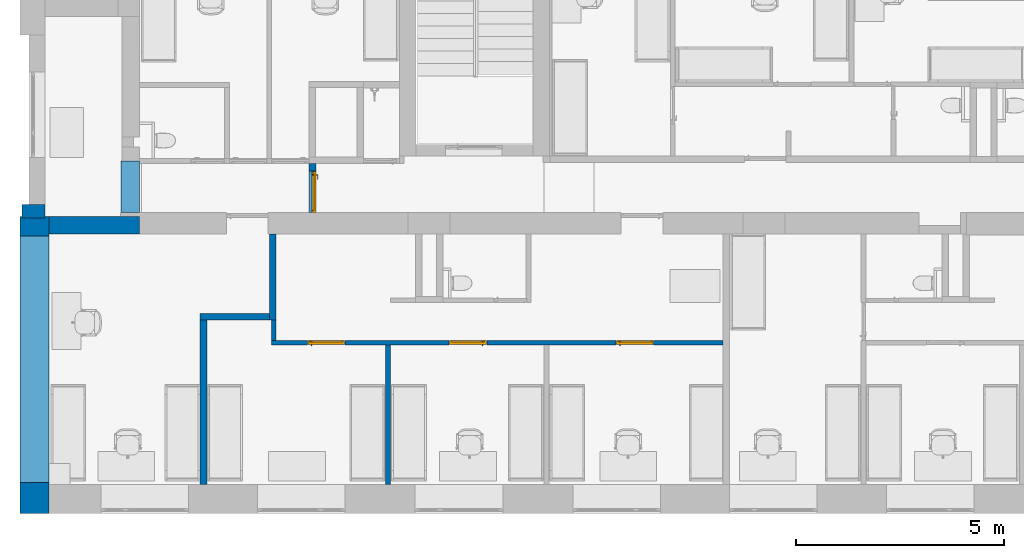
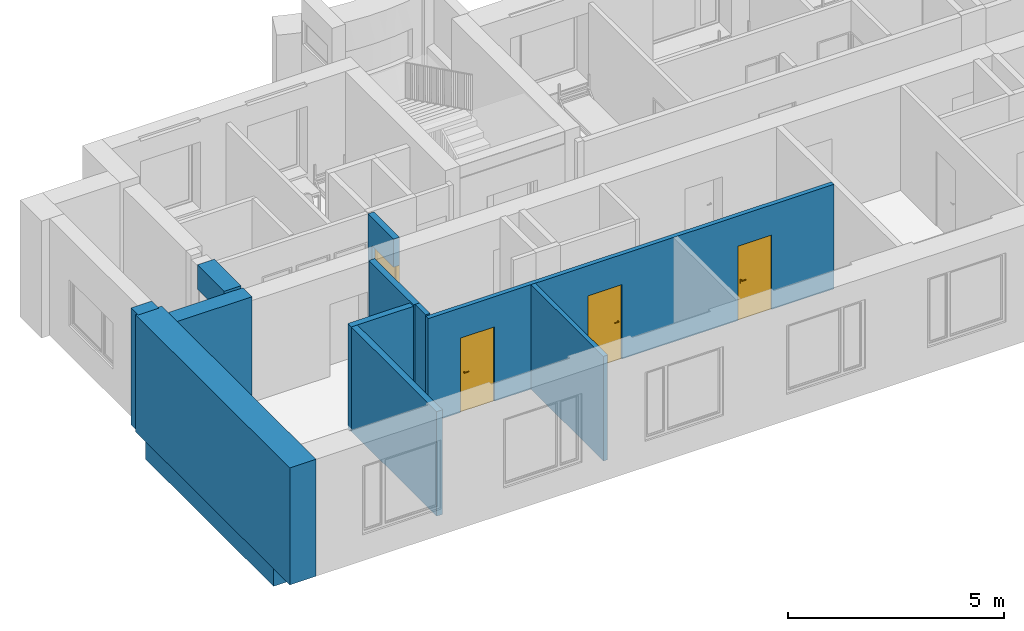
# One storey, part 4 of 46: 12 walls, 4 doors, 4 openings.
"""IFC2X3 building model written with IfcOpenShell, lengths in millimetres."""

import ifcopenshell
import ifcopenshell.guid

model = None  # the IFC model being written
_history = None  # IfcOwnerHistory: only IFC2X3 demands one
_inside = {}  # id of a spatial element -> (the spatial element, [elements in it])
_under = {}  # id of a project, library or spatial element -> (it, [spatial elements below it])
_declared = {}  # id of a project -> (the project, [libraries it declares])
_typed = {}  # id of a type object -> (the type object, [elements of that type])
_made_of = {}  # id of a material, layer set ... -> (it, [elements and type objects made of it])


def new_model(schema):
    """Start an empty IFC model of exactly this schema.

    Asked for "IFC4X3", IfcOpenShell would pick the latest addendum, in which some entities
    have other attributes; the version numbers below select the first issue.
    IFC2X3 requires an IfcOwnerHistory on every rooted entity: one is made here for all.
    """
    global model, _history
    if schema == "IFC4X3":
        model = ifcopenshell.file(schema_version=(4, 3, 0, 0))
    else:
        model = ifcopenshell.file(schema=schema)
    _inside.clear()
    _under.clear()
    _declared.clear()
    _typed.clear()
    _made_of.clear()
    _history = None
    if model.schema == "IFC2X3":
        org = make("IfcOrganization", Name="unknown")
        user = make(
            "IfcPersonAndOrganization",
            ThePerson=make("IfcPerson", FamilyName="unknown"),
            TheOrganization=org,
        )
        app = make(
            "IfcApplication",
            ApplicationDeveloper=org,
            Version="unknown",
            ApplicationFullName="unknown",
            ApplicationIdentifier="unknown",
        )
        _history = make(
            "IfcOwnerHistory",
            OwningUser=user,
            OwningApplication=app,
            ChangeAction="ADDED",
            CreationDate=0,
        )
    return model


def make(cls, **values):
    """One entity of the class cls with the attributes given. An attribute that is None is left unset."""
    return model.create_entity(
        cls, **{name: value for name, value in values.items() if value is not None}
    )


def entity(cls, *values):
    """Any entity or typed value of the class cls, its attributes in the order of the schema. None: left unset."""
    e = model.create_entity(cls)
    for i, value in enumerate(values):
        if value is not None:
            e[i] = value
    return e


def rooted(cls, **values):
    """An entity with a GlobalId (a new one), such as an element, a storey or a relation."""
    return make(cls, GlobalId=ifcopenshell.guid.new(), OwnerHistory=_history, **values)


def si_unit(unit_type, name, prefix=None):
    """IfcSIUnit, for example si_unit("LENGTHUNIT", "METRE", prefix="MILLI")."""
    return make("IfcSIUnit", UnitType=unit_type, Prefix=prefix, Name=name)


def converted_unit(unit_type, name, factor, base, dimensions=None, offset=None):
    """IfcConversionBasedUnit, such as the inch: factor (a typed value) times the base unit."""
    return make(
        "IfcConversionBasedUnit"
        if offset is None
        else "IfcConversionBasedUnitWithOffset",
        ConversionOffset=offset,
        Dimensions=None
        if dimensions is None
        else entity("IfcDimensionalExponents", *dimensions),
        UnitType=unit_type,
        Name=name,
        ConversionFactor=make(
            "IfcMeasureWithUnit", ValueComponent=factor, UnitComponent=base
        ),
    )


def derived_unit(unit_type, elements):
    """IfcDerivedUnit: a product of units, each with its exponent."""
    return make(
        "IfcDerivedUnit",
        Elements=[
            make("IfcDerivedUnitElement", Unit=unit, Exponent=power)
            for unit, power in elements
        ],
        UnitType=unit_type,
    )


def assignment(units):
    """IfcUnitAssignment: the units of a project."""
    return None if units is None else make("IfcUnitAssignment", Units=units)


def point(xyz):
    """IfcCartesianPoint."""
    return None if xyz is None else make("IfcCartesianPoint", Coordinates=xyz)


def direction(xyz):
    """IfcDirection."""
    return None if xyz is None else make("IfcDirection", DirectionRatios=xyz)


def frame(location, z_axis=None, x_axis=None):
    """IfcAxis2Placement3D, a coordinate frame: its origin and axes. An axis left out is left unset."""
    return make(
        "IfcAxis2Placement3D",
        Location=point(location),
        Axis=direction(z_axis),
        RefDirection=direction(x_axis),
    )


def frame_2d(location, x_axis=None):
    """IfcAxis2Placement2D, a coordinate frame in the plane: its origin and x axis."""
    return make(
        "IfcAxis2Placement2D", Location=point(location), RefDirection=direction(x_axis)
    )


def origin():
    """The frame at (0, 0, 0) with its axes left unset."""
    return frame((0.0, 0.0, 0.0))


def place(relative_to, where):
    """IfcLocalPlacement: puts the frame where relative to a parent placement (None: the world)."""
    return make(
        "IfcLocalPlacement", PlacementRelTo=relative_to, RelativePlacement=where
    )


def context(
    kind, dimensions, precision=None, world=None, true_north=None, identifier=None
):
    """IfcGeometricRepresentationContext, for example the 3D "Model" context."""
    return make(
        "IfcGeometricRepresentationContext",
        ContextIdentifier=identifier,
        ContextType=kind,
        CoordinateSpaceDimension=dimensions,
        Precision=precision,
        WorldCoordinateSystem=world,
        TrueNorth=true_north,
    )


def subcontext(parent, identifier, kind, view, scale=None):
    """IfcGeometricRepresentationSubContext, for example "Body" below "Model"."""
    return make(
        "IfcGeometricRepresentationSubContext",
        ContextIdentifier=identifier,
        ContextType=kind,
        ParentContext=parent,
        TargetScale=scale,
        TargetView=view,
    )


def project(units=None, contexts=None):
    """IfcProject with its units and contexts."""
    return rooted(
        "IfcProject",
        Name="project",
        RepresentationContexts=contexts,
        UnitsInContext=assignment(units),
    )


def spatial(cls, under=None, at=None, **own):
    """A site, building, storey or space (cls), placed at a placement, below another one or the project."""
    s = rooted(cls, ObjectPlacement=at, **own)
    if under is not None:
        _under.setdefault(under.id(), (under, []))[1].append(s)
    return s


def polyline(points):
    """IfcPolyline through the points."""
    return make("IfcPolyline", Points=[point(p) for p in points])


def profile(cls, at=None, kind="AREA", **sizes):
    """A parametric profile (cls). Its sizes go by their IFC names, for example OverallWidth=200.0."""
    return make(cls, ProfileType=kind, Position=at, **sizes)


def rectangle(**sizes):
    """IfcRectangleProfileDef."""
    return profile("IfcRectangleProfileDef", **sizes)


def extrude(swept, where, along, depth):
    """IfcExtrudedAreaSolid: the profile swept, set in the frame where, extruded along a direction by depth."""
    return make(
        "IfcExtrudedAreaSolid",
        SweptArea=swept,
        Position=where,
        ExtrudedDirection=direction(along),
        Depth=depth,
    )


def clip(a, b, op="DIFFERENCE"):
    """IfcBooleanClippingResult: the solid a cut by the half space b."""
    return make(
        "IfcBooleanClippingResult", Operator=op, FirstOperand=a, SecondOperand=b
    )


def bounded_halfspace(plane, agree, where, boundary):
    """IfcPolygonalBoundedHalfSpace: a half space limited to a polygon's prism."""
    return make(
        "IfcPolygonalBoundedHalfSpace",
        BaseSurface=make("IfcPlane", Position=plane),
        AgreementFlag=agree,
        Position=where,
        PolygonalBoundary=boundary,
    )


def faces_of(points, faces, orient=None, outer=None):
    """IfcFace entities. A face is a list of loops; a loop is a list of indices into points, from 0.

    orient and outer hold one flag for each loop. By default every Orientation is true, the
    first loop of a face is its IfcFaceOuterBound and the others are IfcFaceBound.
    """
    made = []
    for i, loops in enumerate(faces):
        bounds = []
        for j, loop in enumerate(loops):
            is_outer = j == 0 if outer is None else outer[i][j]
            bounds.append(
                make(
                    "IfcFaceOuterBound" if is_outer else "IfcFaceBound",
                    Bound=make("IfcPolyLoop", Polygon=[points[k] for k in loop]),
                    Orientation=True if orient is None else orient[i][j],
                )
            )
        made.append(make("IfcFace", Bounds=bounds))
    return made


def faceted_brep(points, faces, orient=None, outer=None, voids=None):
    """IfcFacetedBrep: a solid bounded by flat faces; with voids (closed shells), ...WithVoids."""
    shared = [point(p) for p in points]
    hull = make("IfcClosedShell", CfsFaces=faces_of(shared, faces, orient, outer))
    if voids is None:
        return make("IfcFacetedBrep", Outer=hull)
    return make(
        "IfcFacetedBrepWithVoids",
        Outer=hull,
        Voids=[
            make(cls, CfsFaces=faces_of(shared, fs, o, b)) for cls, fs, o, b in voids
        ],
    )


def shape(context_of_items, identifier, shape_type, items):
    """IfcShapeRepresentation: the items that make up one representation, for example the "Body"."""
    return make(
        "IfcShapeRepresentation",
        ContextOfItems=context_of_items,
        RepresentationIdentifier=identifier,
        RepresentationType=shape_type,
        Items=items,
    )


def source(mapping_origin, context_of_items, identifier, shape_type, items):
    """IfcRepresentationMap: a shape defined once, which mapped items show again and again."""
    return make(
        "IfcRepresentationMap",
        MappingOrigin=mapping_origin,
        MappedRepresentation=shape(context_of_items, identifier, shape_type, items),
    )


def transform(
    local_origin,
    x_axis=None,
    y_axis=None,
    z_axis=None,
    scale=None,
    scale2=None,
    scale3=None,
    uniform=True,
):
    """IfcCartesianTransformationOperator3D, or its non-uniform kind. x_axis, y_axis, z_axis: its Axis1, 2, 3."""
    if uniform:
        return make(
            "IfcCartesianTransformationOperator3D",
            Axis1=direction(x_axis),
            Axis2=direction(y_axis),
            LocalOrigin=point(local_origin),
            Scale=scale,
            Axis3=direction(z_axis),
        )
    return make(
        "IfcCartesianTransformationOperator3DnonUniform",
        Axis1=direction(x_axis),
        Axis2=direction(y_axis),
        LocalOrigin=point(local_origin),
        Scale=scale,
        Axis3=direction(z_axis),
        Scale2=scale2,
        Scale3=scale3,
    )


def mapped(mapping_source, mapping_target):
    """IfcMappedItem: shows the shape of a source again, moved by a transform."""
    return make(
        "IfcMappedItem", MappingSource=mapping_source, MappingTarget=mapping_target
    )


def material(Name=None, Category=None):
    """IfcMaterial."""
    return make("IfcMaterial", Name=Name, Category=Category)


def material_list(materials):
    """IfcMaterialList."""
    return make("IfcMaterialList", Materials=materials)


def layer(
    of_material, thickness, ventilated=None, Name=None, Category=None, Priority=None
):
    """IfcMaterialLayer: one layer of a wall or slab, of a material (None: an air gap)."""
    return make(
        "IfcMaterialLayer",
        Material=of_material,
        LayerThickness=thickness,
        IsVentilated=ventilated,
        Name=Name,
        Category=Category,
        Priority=Priority,
    )


def layer_set(layers, Name=None):
    """IfcMaterialLayerSet."""
    return make("IfcMaterialLayerSet", MaterialLayers=layers, LayerSetName=Name)


def layer_usage(for_layer_set, set_direction, sense, offset, extent=None):
    """IfcMaterialLayerSetUsage: how a layer set lies in its element."""
    return make(
        "IfcMaterialLayerSetUsage",
        ForLayerSet=for_layer_set,
        LayerSetDirection=set_direction,
        DirectionSense=sense,
        OffsetFromReferenceLine=offset,
        ReferenceExtent=extent,
    )


def made_of(thing, what):
    """Note that an element or type object is made of a material, layer set ...; save() writes the relation."""
    if what is not None:
        _made_of.setdefault(what.id(), (what, []))[1].append(thing)
    return thing


def type_object(cls, material=None, **own):
    """A type object (cls), such as IfcWallType, which elements share."""
    return made_of(rooted(cls, **own), material)


def type_shapes(of_type, sources):
    """Give a type object the sources (RepresentationMaps) that its elements show as mapped items."""
    of_type.RepresentationMaps = sources


def element(
    cls,
    number,
    at=None,
    inside=None,
    cuts=None,
    type_object=None,
    material=None,
    context=None,
    identifier="Body",
    shape_type=None,
    held_by="IfcProductDefinitionShape",
    body=None,
    shapes=None,
    **own,
):
    """One element of the class cls, such as IfcWall. Its Tag is "e" and its number.

    at: its placement. inside: the storey or other place that contains it. cuts: it is an
    opening in that element (IfcRelVoidsElement). A single representation is given by context,
    identifier, shape_type and body (its items); several are given by shapes. held_by: the class
    of the entity that holds the representations. save() writes the other relations.
    """
    e = rooted(cls, Tag="e%d" % number, ObjectPlacement=at, **own)
    if body is not None:
        shapes = [shape(context, identifier, shape_type, body)]
    if shapes is not None:
        e.Representation = make(held_by, Representations=shapes)
    if inside is not None:
        _inside.setdefault(inside.id(), (inside, []))[1].append(e)
    if cuts is not None:
        rooted(
            "IfcRelVoidsElement", RelatingBuildingElement=cuts, RelatedOpeningElement=e
        )
    if type_object is not None:
        _typed.setdefault(type_object.id(), (type_object, []))[1].append(e)
    return made_of(e, material)


def fill(opening, filler):
    """IfcRelFillsElement: the door or window that sits in an opening."""
    return rooted(
        "IfcRelFillsElement",
        RelatingOpeningElement=opening,
        RelatedBuildingElement=filler,
    )


def aggregate(whole, parts):
    """IfcRelAggregates: a whole, such as a stair, and the parts it consists of."""
    return rooted("IfcRelAggregates", RelatingObject=whole, RelatedObjects=parts)


def save(model, path):
    """Write the relations noted so far, then the file.

    IfcRelAggregates (storeys below a building ...), IfcRelContainedInSpatialStructure (elements
    in a storey), IfcRelDefinesByType, IfcRelAssociatesMaterial and IfcRelDeclares: one each for
    every whole, place, type object, material and project.
    """
    for whole, parts in _under.values():
        aggregate(whole, parts)
    for where, things in _inside.values():
        rooted(
            "IfcRelContainedInSpatialStructure",
            RelatedElements=things,
            RelatingStructure=where,
        )
    for kind, things in _typed.values():
        rooted("IfcRelDefinesByType", RelatedObjects=things, RelatingType=kind)
    for what, things in _made_of.values():
        rooted("IfcRelAssociatesMaterial", RelatedObjects=things, RelatingMaterial=what)
    for by, libraries in _declared.values():
        rooted("IfcRelDeclares", RelatingContext=by, RelatedDefinitions=libraries)
    model.write(path)


model = new_model("IFC2X3")

# Units and contexts
model_context = context("Model", 3, precision=0.01, world=origin(), true_north=direction((6.12303176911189e-17, 1.0)))
body_context = subcontext(model_context, "Body", "Model", "MODEL_VIEW")
ifc_project = project(units=[si_unit("LENGTHUNIT", "METRE", prefix="MILLI"), si_unit("AREAUNIT", "SQUARE_METRE"), si_unit("VOLUMEUNIT", "CUBIC_METRE"), converted_unit("PLANEANGLEUNIT", "DEGREE", entity("IfcRatioMeasure", 0.0174532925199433), si_unit("PLANEANGLEUNIT", "RADIAN"), dimensions=[0, 0, 0, 0, 0, 0, 0]), si_unit("MASSUNIT", "GRAM", prefix="KILO"), derived_unit("MASSDENSITYUNIT", [(si_unit("MASSUNIT", "GRAM", prefix="KILO"), 1), (si_unit("LENGTHUNIT", "METRE"), -3)]), si_unit("TIMEUNIT", "SECOND"), si_unit("FREQUENCYUNIT", "HERTZ"), si_unit("THERMODYNAMICTEMPERATUREUNIT", "DEGREE_CELSIUS"), derived_unit("THERMALTRANSMITTANCEUNIT", [(si_unit("MASSUNIT", "GRAM", prefix="KILO"), 1), (si_unit("THERMODYNAMICTEMPERATUREUNIT", "KELVIN"), -1), (si_unit("TIMEUNIT", "SECOND"), -3)]), derived_unit("VOLUMETRICFLOWRATEUNIT", [(si_unit("LENGTHUNIT", "METRE"), 3), (si_unit("TIMEUNIT", "SECOND"), -1)]), si_unit("ELECTRICCURRENTUNIT", "AMPERE"), si_unit("ELECTRICVOLTAGEUNIT", "VOLT"), si_unit("POWERUNIT", "WATT"), si_unit("FORCEUNIT", "NEWTON", prefix="KILO"), si_unit("ILLUMINANCEUNIT", "LUX"), si_unit("LUMINOUSFLUXUNIT", "LUMEN"), si_unit("LUMINOUSINTENSITYUNIT", "CANDELA"), derived_unit("USERDEFINED", [(si_unit("MASSUNIT", "GRAM", prefix="KILO"), -1), (si_unit("LENGTHUNIT", "METRE"), -2), (si_unit("TIMEUNIT", "SECOND"), 3), (si_unit("LUMINOUSFLUXUNIT", "LUMEN"), 1)]), derived_unit("LINEARVELOCITYUNIT", [(si_unit("LENGTHUNIT", "METRE"), 1), (si_unit("TIMEUNIT", "SECOND"), -1)]), si_unit("PRESSUREUNIT", "PASCAL"), derived_unit("USERDEFINED", [(si_unit("LENGTHUNIT", "METRE"), -2), (si_unit("MASSUNIT", "GRAM", prefix="KILO"), 1), (si_unit("TIMEUNIT", "SECOND"), -2)]), derived_unit("LINEARFORCEUNIT", [(si_unit("MASSUNIT", "GRAM", prefix="KILO"), 1), (si_unit("LENGTHUNIT", "METRE"), 1), (si_unit("TIMEUNIT", "SECOND"), -2), (si_unit("LENGTHUNIT", "METRE"), -1)]), derived_unit("PLANARFORCEUNIT", [(si_unit("MASSUNIT", "GRAM", prefix="KILO"), 1), (si_unit("LENGTHUNIT", "METRE"), 1), (si_unit("TIMEUNIT", "SECOND"), -2), (si_unit("LENGTHUNIT", "METRE"), -2)])], contexts=[model_context])

# Site, building, storey
site_placement = place(None, origin())
site = spatial("IfcSite", under=ifc_project, at=site_placement, Name="Default", CompositionType="ELEMENT")
building_placement = place(site_placement, origin())
building = spatial("IfcBuilding", under=site, at=building_placement, Name="SMA ARH", CompositionType="ELEMENT")
storey_placement = place(building_placement, origin())
storey = spatial("IfcBuildingStorey", under=building, at=storey_placement, Name="1 Korrus", CompositionType="ELEMENT", Elevation=0.0)

# Walls
ifc_material_1 = material(Name="_ol.olev sein")
ifc_layer_1 = layer(ifc_material_1, 700.0)
ifc_layer_set_1 = layer_set([ifc_layer_1], Name="Basic Wall:Generic - 700mm")
ifc_layer_usage_1 = layer_usage(ifc_layer_set_1, "AXIS2", "POSITIVE", -350.0)
wall_type_1 = type_object("IfcWallType", Name="Basic Wall:Generic - 700mm", PredefinedType="STANDARD", material=ifc_layer_set_1)
wall_1_placement = place(storey_placement, frame((-350.0, 6430.0, 0.0), z_axis=(0.0, 0.0, 1.0), x_axis=(0.0, -1.0, 0.0)))
element("IfcWallStandardCase", 1, at=wall_1_placement, inside=storey, type_object=wall_type_1, material=ifc_layer_usage_1, Name="Basic Wall:Generic - 700mm", ObjectType="Basic Wall:Generic - 700mm", context=body_context, shape_type="Clipping", body=[
    clip(extrude(rectangle(XDim=7130.00000000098, YDim=700.0, at=frame_2d((3565.00000000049, 0.0), x_axis=(-1.0, 0.0))), origin(), (0.0, 0.0, 1.0), 3299.99999999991), bounded_halfspace(frame((40.0, 250.0, 3300.0), z_axis=(1.0, 0.0, 0.0), x_axis=(0.0, -1.0, 0.0)), True, frame((40.0, 250.0, 3300.0), z_axis=(1.0, 0.0, 0.0), x_axis=(0.0, -1.0, 0.0)), polyline([(0.0, 0.0), (550.0, 0.0), (550.0, 3300.0), (0.0, 3300.0), (0.0, 0.0)]))),
])
ifc_layer_usage_2 = layer_usage(ifc_layer_set_1, "AXIS2", "POSITIVE", -350.0)
wall_2_placement = place(storey_placement, frame((-350.0, 5960.0, -494.206602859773), z_axis=(0.0, 0.0, 1.0), x_axis=(0.0, -1.0, 0.0)))
element("IfcWallStandardCase", 2, at=wall_2_placement, inside=storey, type_object=wall_type_1, material=ifc_layer_usage_2, Name="Basic Wall:Generic - 700mm", ObjectType="Basic Wall:Generic - 700mm", context=body_context, shape_type="SweptSolid", body=[
    extrude(rectangle(XDim=5910.0, YDim=700.0, at=frame_2d((2955.0, 0.0), x_axis=(-1.0, 0.0))), origin(), (0.0, 0.0, 1.0), 494.206602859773),
])
ifc_layer_2 = layer(ifc_material_1, 550.0)
ifc_layer_set_2 = layer_set([ifc_layer_2], Name="Basic Wall:Generic - 550mm")
ifc_layer_usage_3 = layer_usage(ifc_layer_set_2, "AXIS2", "NEGATIVE", 275.0)
wall_type_2 = type_object("IfcWallType", Name="Basic Wall:Generic - 550mm", PredefinedType="STANDARD", material=ifc_layer_set_2)
wall_3_placement = place(storey_placement, frame((-375.0, 6390.0, 0.0), z_axis=(0.0, 0.0, 1.0), x_axis=(0.0, 1.0, 0.0)))
element("IfcWallStandardCase", 3, at=wall_3_placement, inside=storey, type_object=wall_type_2, material=ifc_layer_usage_3, Name="Basic Wall:Generic - 550mm", ObjectType="Basic Wall:Generic - 550mm", context=body_context, shape_type="SweptSolid", body=[
    extrude(rectangle(XDim=330.000000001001, YDim=550.0, at=frame_2d((165.000000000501, 8.5265128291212e-14), x_axis=(-1.0, 0.0))), origin(), (0.0, 0.0, 1.0), 3299.99999999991),
])
ifc_layer_3 = layer(ifc_material_1, 420.0)
ifc_layer_set_3 = layer_set([ifc_layer_3], Name="Basic Wall:Generic - 420mm")
ifc_layer_usage_4 = layer_usage(ifc_layer_set_3, "AXIS2", "POSITIVE", -210.0)
wall_type_3 = type_object("IfcWallType", Name="Basic Wall:Generic - 420mm", PredefinedType="STANDARD", material=ifc_layer_set_3)
wall_4_placement = place(storey_placement, frame((0.0, 6220.0, 0.0)))
element("IfcWallStandardCase", 4, at=wall_4_placement, inside=storey, type_object=wall_type_3, material=ifc_layer_usage_4, Name="Basic Wall:Generic - 420mm", ObjectType="Basic Wall:Generic - 420mm", context=body_context, shape_type="SweptSolid", body=[
    extrude(rectangle(XDim=2166.80783715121, YDim=420.0, at=frame_2d((1083.4039185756, 2.27373675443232e-13), x_axis=(-1.0, 0.0))), origin(), (0.0, 0.0, 1.0), 3059.99999999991),
])
ifc_layer_4 = layer(ifc_material_1, 450.0)
ifc_layer_set_4 = layer_set([ifc_layer_4], Name="Basic Wall:Generic - 450mm")
ifc_layer_usage_5 = layer_usage(ifc_layer_set_4, "AXIS2", "NEGATIVE", 225.0)
wall_type_4 = type_object("IfcWallType", Name="Basic Wall:Generic - 450mm", PredefinedType="STANDARD", material=ifc_layer_set_4)
wall_5_placement = place(storey_placement, frame((1941.80783715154, 6520.0, 2367.84496076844), z_axis=(0.0, 0.0, 1.0), x_axis=(0.0, 1.0, 0.0)))
element("IfcWallStandardCase", 5, at=wall_5_placement, inside=storey, type_object=wall_type_4, material=ifc_layer_usage_5, Name="Basic Wall:Generic - 450mm", ObjectType="Basic Wall:Generic - 450mm", context=body_context, shape_type="SweptSolid", body=[
    extrude(rectangle(XDim=1238.00000000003, YDim=450.0, at=frame_2d((619.000000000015, -4.2632564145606e-14), x_axis=(-1.0, 0.0))), origin(), (0.0, 0.0, 1.0), 692.155039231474),
])
ifc_material_2 = material(Name="EST. Ehitusplaat. Kipsplaat")
ifc_layer_5 = layer(ifc_material_2, 12.5)
ifc_layer_6 = layer(ifc_material_2, 12.5)
ifc_material_3 = material(Name="EST. Soojustus. Mineraalvill. Default")
ifc_layer_7 = layer(ifc_material_3, 50.0)
ifc_layer_8 = layer(ifc_material_2, 12.5)
ifc_layer_9 = layer(ifc_material_3, 50.0)
ifc_layer_10 = layer(ifc_material_2, 12.5)
ifc_layer_11 = layer(ifc_material_2, 12.5)
ifc_layer_set_5 = layer_set([ifc_layer_5, ifc_layer_6, ifc_layer_7, ifc_layer_8, ifc_layer_9, ifc_layer_10, ifc_layer_11], Name="Basic Wall:SS-04_Kips, 50+50 mm metallkarkass 2")
ifc_layer_usage_6 = layer_usage(ifc_layer_set_5, "AXIS2", "NEGATIVE", 81.25)
wall_type_5 = type_object("IfcWallType", Name="Basic Wall:SS-04_Kips, 50+50 mm metallkarkass 2", PredefinedType="STANDARD", material=ifc_layer_set_5)
wall_6_placement = place(storey_placement, frame((3704.50000000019, 0.0, 0.0), z_axis=(0.0, 0.0, 1.0), x_axis=(0.0, 1.0, 0.0)))
element("IfcWallStandardCase", 6, at=wall_6_placement, inside=storey, type_object=wall_type_5, material=ifc_layer_usage_6, Name="Basic Wall:SS-04_Kips, 50+50 mm metallkarkass 2", ObjectType="Basic Wall:SS-04_Kips, 50+50 mm metallkarkass 2", context=body_context, shape_type="SweptSolid", body=[
    extrude(rectangle(XDim=3944.25000000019, YDim=162.5, at=frame_2d((1972.1250000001, 1.49213974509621e-13), x_axis=(-1.0, 0.0))), origin(), (0.0, 0.0, 1.0), 2949.99999999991),
])
ifc_layer_usage_7 = layer_usage(ifc_layer_set_5, "AXIS2", "NEGATIVE", 81.25)
wall_7_placement = place(storey_placement, frame((5363.75000000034, 6010.0, 0.0), z_axis=(0.0, 0.0, 1.0), x_axis=(0.0, -1.0, 0.0)))
element("IfcWallStandardCase", 7, at=wall_7_placement, inside=storey, type_object=wall_type_5, material=ifc_layer_usage_7, Name="Basic Wall:SS-04_Kips, 50+50 mm metallkarkass 2", ObjectType="Basic Wall:SS-04_Kips, 50+50 mm metallkarkass 2", context=body_context, shape_type="SweptSolid", body=[
    extrude(rectangle(XDim=2065.75000000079, YDim=162.5, at=frame_2d((1032.87500000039, 1.35003119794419e-13), x_axis=(-1.0, 0.0))), origin(), (0.0, 0.0, 1.0), 2989.99999999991),
])

# Wall, opening, door
ifc_layer_usage_8 = layer_usage(ifc_layer_set_5, "AXIS2", "NEGATIVE", 81.25)
wall_8_placement = place(storey_placement, frame((6316.57130046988, 6520.0, 0.0), z_axis=(0.0, 0.0, 1.0), x_axis=(0.0, 1.0, 0.0)))
wall_8 = element("IfcWallStandardCase", 8, at=wall_8_placement, inside=storey, type_object=wall_type_5, material=ifc_layer_usage_8, Name="Basic Wall:SS-04_Kips, 50+50 mm metallkarkass 2", ObjectType="Basic Wall:SS-04_Kips, 50+50 mm metallkarkass 2", context=body_context, shape_type="SweptSolid", body=[
    extrude(rectangle(XDim=1180.00000000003, YDim=162.5, at=frame_2d((590.000000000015, -8.5265128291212e-14), x_axis=(-1.0, 0.0))), origin(), (0.0, 0.0, 1.0), 2949.99999999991),
])
opening_1_placement = place(wall_8_placement, frame((1000.0, 81.2499999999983, 60.0)))
opening_1 = element("IfcOpeningElement", 9, at=opening_1_placement, cuts=wall_8, Name="SMA_D01, 1-poolne:SU-P-04 - 1000x2100 EI-30:1", ObjectType="Opening", context=body_context, shape_type="SweptSolid", body=[
    extrude(rectangle(XDim=2099.99999999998, YDim=1000.0, at=frame_2d((1049.99999999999, 500.0), x_axis=(1.0, 0.0))), frame((0.0, 0.0, 0.0), z_axis=(0.0, -1.0, 0.0), x_axis=(0.0, 0.0, 1.0)), (0.0, 0.0, 1.0), 162.5),
])
ifc_material_4 = material(Name="EST. Metall. Alumiinium. Värvitud. RAL7023 (Concrete grey)")
ifc_material_5 = material(Name="<Unnamed>")
ifc_material_6 = material(Name="EST. Klaas. 3x. Default")
ifc_material_list_1 = material_list([ifc_material_4, ifc_material_5, ifc_material_4, ifc_material_5, ifc_material_6, ifc_material_5, ifc_material_4])
door_style_1 = type_object("IfcDoorStyle", Name="SMA_D01, 1-poolne:SU-P-04 - 1000x2100 EI-30", ConstructionType="NOTDEFINED", OperationType="SINGLE_SWING_RIGHT", ParameterTakesPrecedence=False, Sizeable=False, material=ifc_material_list_1)
shared_shape_1 = source(origin(), body_context, "Body", "Brep", [
    faceted_brep([(110.0, 72.5000000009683, 1112.5), (110.0, 110.500000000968, 1112.5), (85.0, 110.500000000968, 1112.5), (85.0, 67.5000000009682, 1112.5), (205.0, 67.5000000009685, 1112.5), (205.0, 72.5000000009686, 1112.5), (110.0, 72.5000000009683, 1087.5), (205.0, 72.5000000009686, 1087.5), (205.0, 67.5000000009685, 1087.5), (85.0, 67.5000000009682, 1087.5), (85.0, 110.500000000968, 1087.5), (110.0, 110.500000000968, 1087.5)], [[[0, 1, 2, 3, 4, 5]], [[6, 7, 8, 9, 10, 11]], [[1, 0, 6, 11]], [[2, 1, 11, 10]], [[3, 2, 10, 9]], [[4, 3, 9, 8]], [[5, 4, 8, 7]], [[0, 5, 7, 6]]]),
    faceted_brep([(122.499999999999, 110.500000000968, 1137.5), (122.499999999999, 112.500000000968, 1137.5), (72.4999999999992, 112.500000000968, 1137.5), (72.4999999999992, 110.500000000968, 1137.5), (122.499999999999, 110.500000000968, 1017.5), (72.4999999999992, 110.500000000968, 1017.5), (72.4999999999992, 112.500000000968, 1017.5), (122.499999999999, 112.500000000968, 1017.5)], [[[0, 1, 2, 3]], [[4, 5, 6, 7]], [[1, 0, 4, 7]], [[2, 1, 7, 6]], [[3, 2, 6, 5]], [[0, 3, 5, 4]]]),
    faceted_brep([(110.0, 202.500000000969, 1112.5), (205.0, 202.500000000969, 1112.5), (205.0, 207.500000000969, 1112.5), (85.0, 207.500000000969, 1112.5), (85.0, 164.500000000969, 1112.5), (110.0, 164.500000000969, 1112.5), (110.0, 202.500000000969, 1087.5), (110.0, 164.500000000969, 1087.5), (85.0, 164.500000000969, 1087.5), (85.0, 207.500000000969, 1087.5), (205.0, 207.500000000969, 1087.5), (205.0, 202.500000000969, 1087.5)], [[[0, 1, 2, 3, 4, 5]], [[6, 7, 8, 9, 10, 11]], [[5, 7, 6, 0]], [[4, 8, 7, 5]], [[3, 9, 8, 4]], [[2, 10, 9, 3]], [[1, 11, 10, 2]], [[0, 6, 11, 1]]]),
    faceted_brep([(122.499999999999, 164.500000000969, 1137.5), (72.4999999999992, 164.500000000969, 1137.5), (72.4999999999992, 162.500000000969, 1137.5), (122.499999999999, 162.500000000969, 1137.5), (122.499999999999, 164.500000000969, 1017.5), (122.499999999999, 162.500000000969, 1017.5), (72.4999999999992, 162.500000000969, 1017.5), (72.4999999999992, 164.500000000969, 1017.5)], [[[0, 1, 2, 3]], [[4, 5, 6, 7]], [[3, 5, 4, 0]], [[2, 6, 5, 3]], [[1, 7, 6, 2]], [[0, 4, 7, 1]]]),
    faceted_brep([(950.0, 72.5000000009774, 30.0), (950.0, 72.5000000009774, 0.0), (950.0, 112.500000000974, 0.0), (950.0, 112.500000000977, 20.0), (950.0, 112.500000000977, 30.0), (50.0, 72.5000000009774, 30.0), (50.0, 112.500000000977, 30.0), (50.0, 112.500000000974, 20.0), (50.0, 112.500000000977, 0.0), (50.0, 72.5000000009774, 0.0), (35.0, 112.500000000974, 0.0), (35.0, 162.500000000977, 0.0), (965.0, 162.500000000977, 0.0), (965.0, 112.500000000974, 0.0), (965.0, 162.500000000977, 20.0), (965.0, 112.500000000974, 20.0), (35.0, 162.500000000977, 20.0), (35.0, 112.500000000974, 20.0)], [[[0, 1, 2, 3, 4]], [[5, 6, 7, 8, 9]], [[1, 0, 5, 9]], [[2, 1, 9, 8, 10, 11, 12, 13]], [[6, 4, 3, 7]], [[0, 4, 6, 5]], [[14, 15, 13, 12]], [[16, 11, 10, 17]], [[15, 14, 16, 17, 7, 3]], [[13, 15, 3, 2]], [[14, 12, 11, 16]], [[17, 10, 8, 7]]]),
    faceted_brep([(990.0, 72.500000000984, 0.0), (950.0, 72.5000000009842, 0.0), (950.0, 112.500000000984, 0.0), (965.0, 112.500000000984, 0.0), (965.0, 162.500000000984, 0.0), (990.0, 162.500000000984, 0.0), (990.0, 72.500000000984, 2090.0), (10.0, 72.5000000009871, 2090.0), (10.0, 72.5000000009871, 0.0), (50.0, 72.5000000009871, 0.0), (50.0, 72.5000000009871, 2050.0), (950.0, 72.5000000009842, 2050.0), (950.0, 112.500000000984, 2050.0), (50.0, 112.500000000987, 2050.0), (50.0, 112.500000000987, 0.0), (35.0, 112.500000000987, 0.0), (35.0, 112.500000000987, 2065.0), (965.0, 112.500000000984, 2065.0), (965.0, 162.500000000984, 2065.0), (35.0, 162.500000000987, 2065.0), (35.0, 162.500000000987, 0.0), (10.0, 162.500000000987, 0.0), (10.0, 162.500000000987, 2090.0), (990.0, 162.500000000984, 2090.0)], [[[0, 1, 2, 3, 4, 5]], [[1, 0, 6, 7, 8, 9, 10, 11]], [[2, 1, 11, 12]], [[3, 2, 12, 13, 14, 15, 16, 17]], [[4, 3, 17, 18]], [[5, 4, 18, 19, 20, 21, 22, 23]], [[0, 5, 23, 6]], [[8, 7, 22, 21]], [[9, 8, 21, 20, 15, 14]], [[10, 9, 14, 13]], [[16, 15, 20, 19]], [[11, 10, 13, 12]], [[17, 16, 19, 18]], [[7, 6, 23, 22]]]),
    faceted_brep([(35.0, 112.500000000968, 2065.0), (35.0, 112.500000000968, 20.0), (965.0, 112.500000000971, 20.0), (965.0, 112.500000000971, 2065.0), (35.0, 162.500000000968, 2065.0), (965.0, 162.500000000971, 2065.0), (965.0, 162.500000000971, 20.0), (35.0, 162.500000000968, 20.0)], [[[0, 1, 2, 3]], [[4, 5, 6, 7]], [[1, 0, 4, 7]], [[2, 1, 7, 6]], [[3, 2, 6, 5]], [[0, 3, 5, 4]]]),
])
type_shapes(door_style_1, [shared_shape_1])
door_1_placement = place(opening_1_placement, frame((0.0, 0.0, 0.0), z_axis=(0.0, 0.0, 1.0), x_axis=(-1.0, 0.0, 0.0)))
door_1 = element("IfcDoor", 10, at=door_1_placement, inside=storey, type_object=door_style_1, material=ifc_material_4, Name="SMA_D01, 1-poolne:SU-P-04 - 1000x2100 EI-30", ObjectType="SMA_D01, 1-poolne:SU-P-04 - 1000x2100 EI-30", OverallHeight=2099.99999999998, OverallWidth=999.999999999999, context=body_context, shape_type="MappedRepresentation", body=[
    mapped(shared_shape_1, transform((0.0, 0.0, 0.0), scale=1.0)),
])
fill(opening_1, door_1)

# Wall
ifc_layer_usage_9 = layer_usage(ifc_layer_set_5, "AXIS2", "NEGATIVE", 81.25)
wall_9_placement = place(storey_placement, frame((5282.50000000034, 4025.49999999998, 0.0), z_axis=(0.0, 0.0, 1.0), x_axis=(-1.0, 0.0, 0.0)))
element("IfcWallStandardCase", 11, at=wall_9_placement, inside=storey, type_object=wall_type_5, material=ifc_layer_usage_9, Name="Basic Wall:SS-04_Kips, 50+50 mm metallkarkass 2", ObjectType="Basic Wall:SS-04_Kips, 50+50 mm metallkarkass 2", context=body_context, shape_type="SweptSolid", body=[
    extrude(rectangle(XDim=1659.25000000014, YDim=162.5, at=frame_2d((829.625000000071, 1.13686837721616e-13), x_axis=(-1.0, 0.0))), origin(), (0.0, 0.0, 1.0), 2949.99999999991),
])

# Wall, openings, doors
ifc_layer_12 = layer(ifc_material_2, 12.5)
ifc_layer_13 = layer(ifc_material_2, 12.5)
ifc_layer_14 = layer(ifc_material_3, 66.0)
ifc_layer_15 = layer(ifc_material_2, 12.5)
ifc_layer_16 = layer(ifc_material_2, 12.5)
ifc_layer_set_6 = layer_set([ifc_layer_12, ifc_layer_13, ifc_layer_14, ifc_layer_15, ifc_layer_16], Name="Basic Wall:SS-05_Kips, 66mm metallkarkass")
ifc_layer_usage_10 = layer_usage(ifc_layer_set_6, "AXIS2", "NEGATIVE", 58.0)
wall_type_6 = type_object("IfcWallType", Name="Basic Wall:SS-05_Kips, 66mm metallkarkass", PredefinedType="STANDARD", material=ifc_layer_set_6)
wall_10_placement = place(storey_placement, frame((5329.0, 3402.0, 0.0)))
wall_10 = element("IfcWallStandardCase", 12, at=wall_10_placement, inside=storey, type_object=wall_type_6, material=ifc_layer_usage_10, Name="Basic Wall:SS-05_Kips, 66mm metallkarkass", ObjectType="Basic Wall:SS-05_Kips, 66mm metallkarkass", context=body_context, shape_type="SweptSolid", body=[
    extrude(rectangle(XDim=10828.9999999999, YDim=116.0, at=frame_2d((5414.49999999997, 6.75015598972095e-14), x_axis=(-1.0, 0.0))), origin(), (0.0, 0.0, 1.0), 2949.99999999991),
])
opening_2_placement = place(wall_10_placement, frame((1766.0, 58.0, 0.0)))
opening_2 = element("IfcOpeningElement", 13, at=opening_2_placement, cuts=wall_10, Name="SMA_D01, 1-poolne:SU-P-05 - 900x2100 TUBA:1", ObjectType="Opening", context=body_context, shape_type="SweptSolid", body=[
    extrude(rectangle(XDim=2099.99999999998, YDim=900.0, at=frame_2d((1049.99999999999, 450.0), x_axis=(1.0, 0.0))), frame((0.0, 0.0, 0.0), z_axis=(0.0, -1.0, 0.0), x_axis=(0.0, 0.0, 1.0)), (0.0, 0.0, 1.0), 116.0),
])
opening_3_placement = place(wall_10_placement, frame((5166.0, 58.0, 0.0)))
opening_3 = element("IfcOpeningElement", 14, at=opening_3_placement, cuts=wall_10, Name="SMA_D01, 1-poolne:SU-P-05 - 900x2100 TUBA:1", ObjectType="Opening", context=body_context, shape_type="SweptSolid", body=[
    extrude(rectangle(XDim=2099.99999999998, YDim=900.0, at=frame_2d((1049.99999999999, 450.0), x_axis=(1.0, 0.0))), frame((0.0, 0.0, 0.0), z_axis=(0.0, -1.0, 0.0), x_axis=(0.0, 0.0, 1.0)), (0.0, 0.0, 1.0), 116.0),
])
opening_4_placement = place(wall_10_placement, frame((9166.0, 58.0, 0.0)))
opening_4 = element("IfcOpeningElement", 15, at=opening_4_placement, cuts=wall_10, Name="SMA_D01, 1-poolne:SU-P-05 - 900x2100 TUBA:1", ObjectType="Opening", context=body_context, shape_type="SweptSolid", body=[
    extrude(rectangle(XDim=2099.99999999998, YDim=900.0, at=frame_2d((1049.99999999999, 450.000000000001), x_axis=(1.0, 0.0))), frame((0.0, 0.0, 0.0), z_axis=(0.0, -1.0, 0.0), x_axis=(0.0, 0.0, 1.0)), (0.0, 0.0, 1.0), 116.0),
])
ifc_material_list_2 = material_list([ifc_material_4, ifc_material_5, ifc_material_4, ifc_material_5, ifc_material_5, ifc_material_6, ifc_material_4])
door_style_2 = type_object("IfcDoorStyle", Name="SMA_D01, 1-poolne:SU-P-05 - 900x2100 TUBA", ConstructionType="NOTDEFINED", OperationType="SINGLE_SWING_LEFT", ParameterTakesPrecedence=False, Sizeable=False, material=ifc_material_list_2)
shared_shape_2 = source(origin(), body_context, "Body", "Brep", [
    faceted_brep([(790.0, 6.0, 1112.5), (695.0, 6.0, 1112.5), (695.0, 1.0, 1112.5), (815.0, 1.0, 1112.5), (815.0, 44.0, 1112.5), (790.0, 44.0, 1112.5), (790.0, 6.0, 1087.5), (790.0, 44.0, 1087.5), (815.0, 44.0, 1087.5), (815.0, 1.0, 1087.5), (695.0, 1.0, 1087.5), (695.0, 6.0, 1087.5)], [[[0, 1, 2, 3, 4, 5]], [[6, 7, 8, 9, 10, 11]], [[5, 7, 6, 0]], [[4, 8, 7, 5]], [[3, 9, 8, 4]], [[2, 10, 9, 3]], [[1, 11, 10, 2]], [[0, 6, 11, 1]]]),
    faceted_brep([(777.500000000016, 44.0, 1137.5), (827.500000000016, 44.0, 1137.5), (827.500000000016, 46.0, 1137.5), (777.500000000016, 46.0, 1137.5), (777.500000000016, 44.0, 1017.5), (777.500000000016, 46.0, 1017.5), (827.500000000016, 46.0, 1017.5), (827.500000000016, 44.0, 1017.5)], [[[0, 1, 2, 3]], [[4, 5, 6, 7]], [[3, 5, 4, 0]], [[2, 6, 5, 3]], [[1, 7, 6, 2]], [[0, 4, 7, 1]]]),
    faceted_brep([(790.0, 136.0, 1112.5), (790.0, 98.0, 1112.5), (815.0, 98.0, 1112.5), (815.0, 141.0, 1112.5), (695.0, 141.0, 1112.5), (695.0, 136.0, 1112.5), (790.0, 136.0, 1087.5), (695.0, 136.0, 1087.5), (695.0, 141.0, 1087.5), (815.0, 141.0, 1087.5), (815.0, 98.0, 1087.5), (790.0, 98.0, 1087.5)], [[[0, 1, 2, 3, 4, 5]], [[6, 7, 8, 9, 10, 11]], [[1, 0, 6, 11]], [[2, 1, 11, 10]], [[3, 2, 10, 9]], [[4, 3, 9, 8]], [[5, 4, 8, 7]], [[0, 5, 7, 6]]]),
    faceted_brep([(777.500000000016, 98.0, 1137.5), (777.500000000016, 96.0, 1137.5), (827.500000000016, 96.0, 1137.5), (827.500000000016, 98.0, 1137.5), (777.500000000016, 98.0, 1017.5), (827.500000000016, 98.0, 1017.5), (827.500000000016, 96.0, 1017.5), (777.500000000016, 96.0, 1017.5)], [[[0, 1, 2, 3]], [[4, 5, 6, 7]], [[1, 0, 4, 7]], [[2, 1, 7, 6]], [[3, 2, 6, 5]], [[0, 3, 5, 4]]]),
    faceted_brep([(50.0, 6.0, 30.0), (50.0, 46.0, 30.0), (50.0, 46.0, 20.0), (50.0, 46.0, 0.0), (50.0, 6.0, 0.0), (850.0, 6.0, 30.0), (850.0, 6.0, 0.0), (850.0, 46.0, 0.0), (850.0, 46.0, 20.0), (850.0, 46.0, 30.0), (35.0, 46.0, 0.0), (35.0, 96.0, 0.0), (865.0, 96.0, 0.0), (865.0, 46.0, 0.0), (35.0, 96.0, 20.0), (35.0, 46.0, 20.0), (865.0, 96.0, 20.0), (865.0, 46.0, 20.0)], [[[0, 1, 2, 3, 4]], [[5, 6, 7, 8, 9]], [[4, 6, 5, 0]], [[3, 10, 11, 12, 13, 7, 6, 4]], [[9, 8, 2, 1]], [[0, 5, 9, 1]], [[14, 11, 10, 15]], [[16, 17, 13, 12]], [[15, 2, 8, 17, 16, 14]], [[10, 3, 2, 15]], [[14, 16, 12, 11]], [[17, 8, 7, 13]]]),
    faceted_brep([(10.0, 6.0, 0.0), (10.0, 96.0, 0.0), (35.0, 96.0, 0.0), (35.0, 46.0, 0.0), (50.0, 46.0, 0.0), (50.0, 6.0, 0.0), (50.0, 6.0, 2050.0), (850.0, 6.0, 2050.0), (850.0, 6.0, 0.0), (890.0, 6.0, 0.0), (890.0, 6.0, 2090.0), (10.0, 6.0, 2090.0), (50.0, 46.0, 2050.0), (35.0, 46.0, 2065.0), (865.0, 46.0, 2065.0), (865.0, 46.0, 0.0), (850.0, 46.0, 0.0), (850.0, 46.0, 2050.0), (35.0, 96.0, 2065.0), (10.0, 96.0, 2090.0), (890.0, 96.0, 2090.0), (890.0, 96.0, 0.0), (865.0, 96.0, 0.0), (865.0, 96.0, 2065.0)], [[[0, 1, 2, 3, 4, 5]], [[5, 6, 7, 8, 9, 10, 11, 0]], [[4, 12, 6, 5]], [[3, 13, 14, 15, 16, 17, 12, 4]], [[2, 18, 13, 3]], [[1, 19, 20, 21, 22, 23, 18, 2]], [[0, 11, 19, 1]], [[9, 21, 20, 10]], [[8, 16, 15, 22, 21, 9]], [[7, 17, 16, 8]], [[14, 23, 22, 15]], [[6, 12, 17, 7]], [[13, 18, 23, 14]], [[10, 20, 19, 11]]]),
    faceted_brep([(865.0, 46.0, 2065.0), (35.0, 46.0, 2065.0), (35.0, 46.0, 20.0), (865.0, 46.0, 20.0), (865.0, 96.0, 2065.0), (865.0, 96.0, 20.0), (35.0, 96.0, 20.0), (35.0, 96.0, 2065.0)], [[[0, 1, 2, 3]], [[4, 5, 6, 7]], [[3, 5, 4, 0]], [[2, 6, 5, 3]], [[1, 7, 6, 2]], [[0, 4, 7, 1]]]),
])
type_shapes(door_style_2, [shared_shape_2])
door_2_placement = place(opening_2_placement, frame((0.0, 0.0, 0.0), z_axis=(0.0, 0.0, 1.0), x_axis=(-1.0, 0.0, 0.0)))
door_2 = element("IfcDoor", 16, at=door_2_placement, inside=storey, type_object=door_style_2, material=ifc_material_4, Name="SMA_D01, 1-poolne:SU-P-05 - 900x2100 TUBA", ObjectType="SMA_D01, 1-poolne:SU-P-05 - 900x2100 TUBA", OverallHeight=2099.99999999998, OverallWidth=900.0, context=body_context, shape_type="MappedRepresentation", body=[
    mapped(shared_shape_2, transform((0.0, 0.0, 0.0), scale=1.0)),
])
fill(opening_2, door_2)
door_3_placement = place(opening_4_placement, frame((0.0, 0.0, 0.0), z_axis=(0.0, 0.0, 1.0), x_axis=(-1.0, 0.0, 0.0)))
door_3 = element("IfcDoor", 17, at=door_3_placement, inside=storey, type_object=door_style_2, material=ifc_material_4, Name="SMA_D01, 1-poolne:SU-P-05 - 900x2100 TUBA", ObjectType="SMA_D01, 1-poolne:SU-P-05 - 900x2100 TUBA", OverallHeight=2099.99999999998, OverallWidth=900.000000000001, context=body_context, shape_type="MappedRepresentation", body=[
    mapped(shared_shape_2, transform((0.0, 0.0, 0.0), scale=1.0)),
])
fill(opening_4, door_3)
ifc_material_list_3 = material_list([ifc_material_5, ifc_material_6, ifc_material_5, ifc_material_4, ifc_material_4, ifc_material_4, ifc_material_5])
door_style_3 = type_object("IfcDoorStyle", Name="SMA_D01, 1-poolne:SU-P-05 - 900x2100 TUBA", ConstructionType="NOTDEFINED", OperationType="SINGLE_SWING_RIGHT", ParameterTakesPrecedence=False, Sizeable=False, material=ifc_material_list_3)
shared_shape_3 = source(origin(), body_context, "Body", "Brep", [
    faceted_brep([(110.0, 6.0, 1112.5), (110.0, 44.0, 1112.5), (85.0, 44.0, 1112.5), (85.0, 1.0, 1112.5), (205.0, 1.0, 1112.5), (205.0, 6.0, 1112.5), (110.0, 6.0, 1087.5), (205.0, 6.0, 1087.5), (205.0, 1.0, 1087.5), (85.0, 1.0, 1087.5), (85.0, 44.0, 1087.5), (110.0, 44.0, 1087.5)], [[[0, 1, 2, 3, 4, 5]], [[6, 7, 8, 9, 10, 11]], [[1, 0, 6, 11]], [[2, 1, 11, 10]], [[3, 2, 10, 9]], [[4, 3, 9, 8]], [[5, 4, 8, 7]], [[0, 5, 7, 6]]]),
    faceted_brep([(122.5, 44.0, 1137.5), (122.5, 46.0, 1137.5), (72.5000000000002, 46.0, 1137.5), (72.5000000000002, 44.0, 1137.5), (122.5, 44.0, 1017.5), (72.5000000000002, 44.0, 1017.5), (72.5000000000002, 46.0, 1017.5), (122.5, 46.0, 1017.5)], [[[0, 1, 2, 3]], [[4, 5, 6, 7]], [[1, 0, 4, 7]], [[2, 1, 7, 6]], [[3, 2, 6, 5]], [[0, 3, 5, 4]]]),
    faceted_brep([(110.0, 136.0, 1112.5), (205.0, 136.0, 1112.5), (205.0, 141.0, 1112.5), (85.0, 141.0, 1112.5), (85.0, 98.0, 1112.5), (110.0, 98.0, 1112.5), (110.0, 136.0, 1087.5), (110.0, 98.0, 1087.5), (85.0, 98.0, 1087.5), (85.0, 141.0, 1087.5), (205.0, 141.0, 1087.5), (205.0, 136.0, 1087.5)], [[[0, 1, 2, 3, 4, 5]], [[6, 7, 8, 9, 10, 11]], [[5, 7, 6, 0]], [[4, 8, 7, 5]], [[3, 9, 8, 4]], [[2, 10, 9, 3]], [[1, 11, 10, 2]], [[0, 6, 11, 1]]]),
    faceted_brep([(122.5, 98.0, 1137.5), (72.5000000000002, 98.0, 1137.5), (72.5000000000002, 96.0, 1137.5), (122.5, 96.0, 1137.5), (122.5, 98.0, 1017.5), (122.5, 96.0, 1017.5), (72.5000000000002, 96.0, 1017.5), (72.5000000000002, 98.0, 1017.5)], [[[0, 1, 2, 3]], [[4, 5, 6, 7]], [[3, 5, 4, 0]], [[2, 6, 5, 3]], [[1, 7, 6, 2]], [[0, 4, 7, 1]]]),
    faceted_brep([(850.0, 6.0, 30.0), (850.0, 6.0, 0.0), (850.0, 46.0, 0.0), (850.0, 46.0, 20.0), (850.0, 46.0, 30.0), (50.0, 6.0, 30.0), (50.0, 46.0, 30.0), (50.0, 46.0, 20.0), (50.0, 46.0, 0.0), (50.0, 6.0, 0.0), (35.0, 46.0, 0.0), (35.0, 96.0, 0.0), (865.0, 96.0, 0.0), (865.0, 46.0, 0.0), (865.0, 96.0, 20.0), (865.0, 46.0, 20.0), (35.0, 96.0, 20.0), (35.0, 46.0, 20.0)], [[[0, 1, 2, 3, 4]], [[5, 6, 7, 8, 9]], [[1, 0, 5, 9]], [[2, 1, 9, 8, 10, 11, 12, 13]], [[6, 4, 3, 7]], [[0, 4, 6, 5]], [[14, 15, 13, 12]], [[16, 11, 10, 17]], [[15, 14, 16, 17, 7, 3]], [[13, 15, 3, 2]], [[14, 12, 11, 16]], [[17, 10, 8, 7]]]),
    faceted_brep([(890.0, 6.0, 0.0), (850.0, 6.0, 0.0), (850.0, 46.0, 0.0), (865.0, 46.0, 0.0), (865.0, 96.0, 0.0), (890.0, 96.0, 0.0), (890.0, 6.0, 2090.0), (10.0, 6.0, 2090.0), (10.0, 6.0, 0.0), (50.0, 6.0, 0.0), (50.0, 6.0, 2050.0), (850.0, 6.0, 2050.0), (850.0, 46.0, 2050.0), (50.0, 46.0, 2050.0), (50.0, 46.0, 0.0), (35.0, 46.0, 0.0), (35.0, 46.0, 2065.0), (865.0, 46.0, 2065.0), (865.0, 96.0, 2065.0), (35.0, 96.0, 2065.0), (35.0, 96.0, 0.0), (10.0, 96.0, 0.0), (10.0, 96.0, 2090.0), (890.0, 96.0, 2090.0)], [[[0, 1, 2, 3, 4, 5]], [[1, 0, 6, 7, 8, 9, 10, 11]], [[2, 1, 11, 12]], [[3, 2, 12, 13, 14, 15, 16, 17]], [[4, 3, 17, 18]], [[5, 4, 18, 19, 20, 21, 22, 23]], [[0, 5, 23, 6]], [[8, 7, 22, 21]], [[9, 8, 21, 20, 15, 14]], [[10, 9, 14, 13]], [[16, 15, 20, 19]], [[11, 10, 13, 12]], [[17, 16, 19, 18]], [[7, 6, 23, 22]]]),
    faceted_brep([(35.0, 46.0, 2065.0), (35.0, 46.0, 20.0), (865.0, 46.0, 20.0), (865.0, 46.0, 2065.0), (35.0, 96.0, 2065.0), (865.0, 96.0, 2065.0), (865.0, 96.0, 20.0), (35.0, 96.0, 20.0)], [[[0, 1, 2, 3]], [[4, 5, 6, 7]], [[1, 0, 4, 7]], [[2, 1, 7, 6]], [[3, 2, 6, 5]], [[0, 3, 5, 4]]]),
])
type_shapes(door_style_3, [shared_shape_3])
door_4_placement = place(opening_3_placement, frame((0.0, 0.0, 0.0), z_axis=(0.0, 0.0, 1.0), x_axis=(-1.0, 0.0, 0.0)))
door_4 = element("IfcDoor", 18, at=door_4_placement, inside=storey, type_object=door_style_3, material=ifc_material_4, Name="SMA_D01, 1-poolne:SU-P-05 - 900x2100 TUBA", ObjectType="SMA_D01, 1-poolne:SU-P-05 - 900x2100 TUBA", OverallHeight=2099.99999999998, OverallWidth=900.0, context=body_context, shape_type="MappedRepresentation", body=[
    mapped(shared_shape_3, transform((0.0, 0.0, 0.0), scale=1.0)),
])
fill(opening_3, door_4)

# Walls
ifc_layer_usage_11 = layer_usage(ifc_layer_set_6, "AXIS2", "NEGATIVE", 58.0)
wall_11_placement = place(storey_placement, frame((8130.0, 0.0, 0.0), z_axis=(0.0, 0.0, 1.0), x_axis=(0.0, 1.0, 0.0)))
element("IfcWallStandardCase", 19, at=wall_11_placement, inside=storey, type_object=wall_type_6, material=ifc_layer_usage_11, Name="Basic Wall:SS-05_Kips, 66mm metallkarkass", ObjectType="Basic Wall:SS-05_Kips, 66mm metallkarkass", context=body_context, shape_type="SweptSolid", body=[
    extrude(rectangle(XDim=3344.00000000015, YDim=116.0, at=frame_2d((1672.00000000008, 1.4210854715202e-14), x_axis=(-1.0, 0.0))), origin(), (0.0, 0.0, 1.0), 2949.99999999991),
])
ifc_layer_usage_12 = layer_usage(ifc_layer_set_6, "AXIS2", "NEGATIVE", 58.0)
wall_12_placement = place(storey_placement, frame((5387.0, 4025.49999999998, 0.0), z_axis=(0.0, 0.0, 1.0), x_axis=(0.0, -1.0, 0.0)))
element("IfcWallStandardCase", 20, at=wall_12_placement, inside=storey, type_object=wall_type_6, material=ifc_layer_usage_12, Name="Basic Wall:SS-05_Kips, 66mm metallkarkass", ObjectType="Basic Wall:SS-05_Kips, 66mm metallkarkass", context=body_context, shape_type="SweptSolid", body=[
    extrude(rectangle(XDim=484.250000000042, YDim=116.0, at=frame_2d((323.375000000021, 0.0), x_axis=(-1.0, 0.0))), origin(), (0.0, 0.0, 1.0), 2989.99999999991),
])

save(model, "model.ifc")
